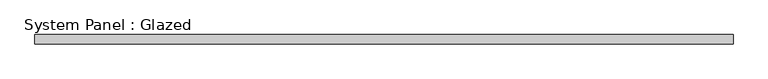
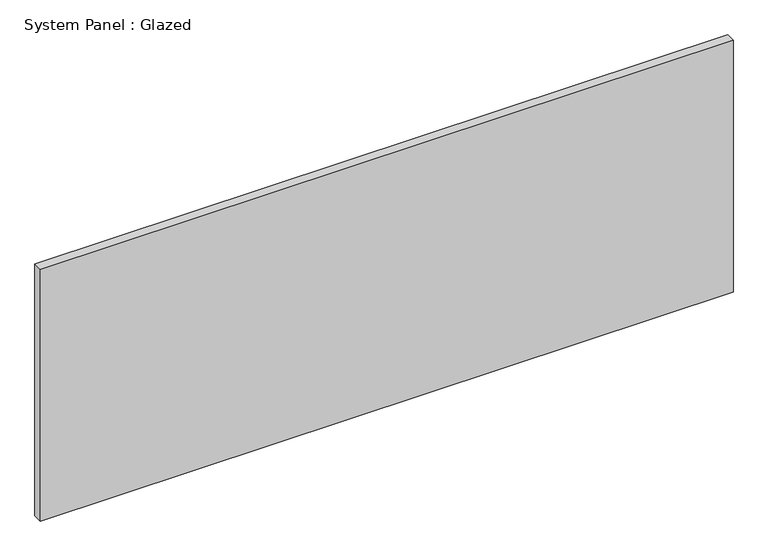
"""IFC4 building model written with IfcOpenShell, lengths in millimetres: plate geometry, System Panel : Glazed."""

from ifc_helpers import new_model, si_unit, origin, origin_with_axes, place, context, project, spatial, polyline, outline, extrude, source, transform, mapped, element, save


def system_panel_glazed_30649ce8(model_context):
    return source(origin(), model_context, "Body", "SweptSolid", [
        extrude(outline(polyline([(933.45, 19.05), (-933.45, 19.05), (-933.45, 44.45), (933.45, 44.45), (933.45, 19.05)])), origin_with_axes(), (0.0, 0.0, 1.0), 717.55),
    ])


if __name__ == "__main__":
    model = new_model("IFC4")
    model_context = context("Model", 3, world=origin())
    ifc_project = project(units=[si_unit("LENGTHUNIT", "METRE", prefix="MILLI")], contexts=[model_context])
    site = spatial("IfcSite", under=ifc_project)
    building = spatial("IfcBuilding", under=site)
    placement = place(None, origin())
    system_panel_glazed_shape = system_panel_glazed_30649ce8(model_context)
    element("IfcPlate", 1, ObjectType="System Panel : Glazed", at=placement, inside=building, context=model_context, shape_type="MappedRepresentation", body=[
        mapped(system_panel_glazed_shape, transform((0.0, 0.0, 0.0), x_axis=(1.0, 0.0, 0.0), y_axis=(0.0, 1.0, 0.0), z_axis=(0.0, 0.0, 1.0))),
    ])
    save(model, "model.ifc")
